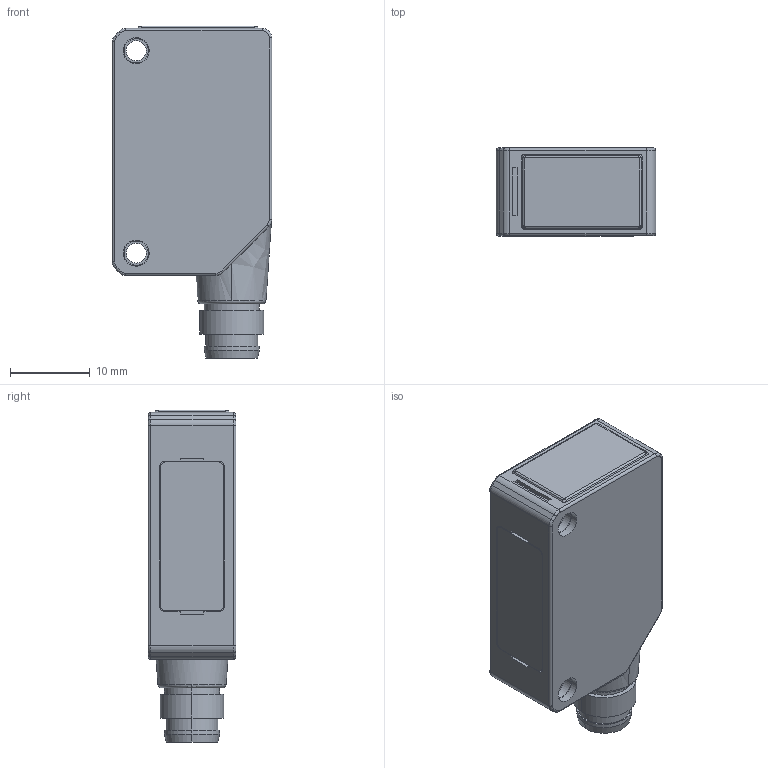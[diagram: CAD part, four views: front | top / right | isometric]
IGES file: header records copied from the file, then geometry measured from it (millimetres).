
Start section: Elysium IGES Interface
Global section: file name: 153H\\fadev.optexgroup.co.jp\技術情報\01_CAD\CAD_data\Horiike_fanas_kyoto\X166_W100-2_IO_LINK\外形寸法図\3D data\IGES\Z4_Connector_Type_Thru-Beam_Emitter.igs; native system: CoCreate Modeling 16.50A  01-Dec-2009; preprocessor: CoCreate IGES_3D V2.2; author: Unknown; organization: Unknown; date: 20191004.143437; units: millimetre
Bounding box: 20 x 11 x 41.65 mm (x, y, z)
Volume: 6944.7 mm3; surface area: 3001 mm2
Topology: 1 solids, 1 shells, 174 faces, 407 edges, 256 vertices
Faces by surface type: bspline 174
